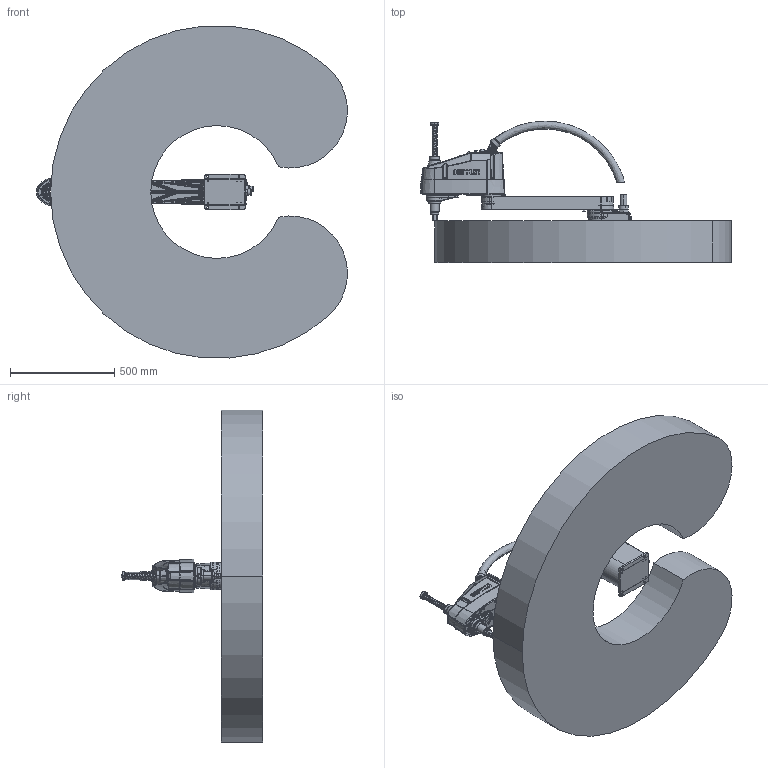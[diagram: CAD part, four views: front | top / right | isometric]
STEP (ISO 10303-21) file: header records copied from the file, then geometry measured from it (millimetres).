
FILE_DESCRIPTION (( 'STEP AP203' ), '1' );
FILE_NAME ('ER10-800-SR Íâ²¿Ä£ÐÍ.STEP', '2024-03-20T09:54:03', ( '' ), ( '' ), 'SwSTEP 2.0', 'SolidWorks 2018', '' );
FILE_SCHEMA (( 'CONFIG_CONTROL_DESIGN' ));
Products named in the file (8): ER10-800-01; ER10-800-03; ER10-800-02; ER10-800-SR 俋窒耀倰; ER10-800-05; ER10-800-04; ER10-800-06; ER10-800-07
Assembly tree (7 placements, depth 2):
  ER10-800-SR 俋窒耀倰
    ER10-800-01
    ER10-800-02
    ER10-800-03
    ER10-800-04
    ER10-800-05
    ER10-800-06
    ER10-800-07
Bounding box: 1493.82 x 679.13 x 1595.53 mm (x, y, z)
Volume: 296439727.5 mm3; surface area: 5948120.9 mm2
Topology: 60 solids, 131 shells, 5371 faces, 12572 edges, 7665 vertices
Faces by surface type: cylinder 1720, plane 1666, bspline 672, cone 657, torus 608, sphere 48
Entity records: 224256 total; most frequent: CARTESIAN_POINT 106228, ORIENTED_EDGE 24762, DIRECTION 23901, EDGE_CURVE 12405, AXIS2_PLACEMENT_3D 9721, VERTEX_POINT 7664, EDGE_LOOP 5983, ADVANCED_FACE 5371
